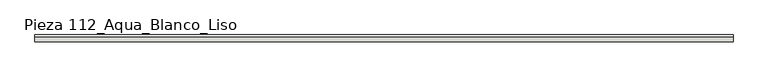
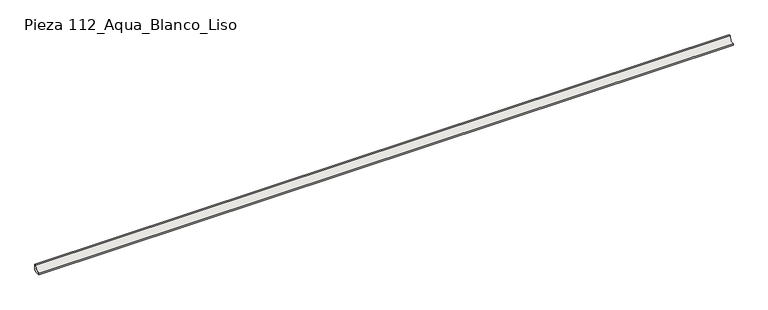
"""IFC4 building model written with IfcOpenShell, lengths in millimetres: slab geometry, ROSA GRES_112 : Pieza 112_Aqua_Blanco_Liso."""

from ifc_helpers import new_model, si_unit, point, frame, frame_2d, origin, place, context, project, spatial, polyline, circle_curve, trimmed, segment, composite_curve, outline, extrude, source, transform, mapped, element, save


def pieza_112_aqua_blanco_liso_e0a0f779(model_context):
    return source(origin(), model_context, "Body", "SweptSolid", [
        extrude(outline(composite_curve([segment(polyline([(9.9734114, 8.7114978), (1.2619137, 0.0), (-30.0265886, 0.0), (-30.0265886, 9.9734114)]), True, "CONTINUOUS"), segment(trimmed(circle_curve(frame_2d((-30.0221432, 39.9955547)), 30.0221435), [point((-30.0265886, 9.9734114))], [point((0.0, 40.0))], True, "CARTESIAN"), True, "CONTINUOUS"), segment(polyline([(0.0, 40.0), (9.9734114, 40.0), (9.9734114, 8.7114978)]), True, "CONTINUOUS")], self_intersect=False)), frame((0.0, 0.0, 0.0), z_axis=(1.0, 0.0, 0.0), x_axis=(0.0, 1.0, 0.0)), (0.0, 0.0, 1.0), 4066.1645773),
    ])


if __name__ == "__main__":
    model = new_model("IFC4")
    model_context = context("Model", 3, world=origin())
    ifc_project = project(units=[si_unit("LENGTHUNIT", "METRE", prefix="MILLI")], contexts=[model_context])
    site = spatial("IfcSite", under=ifc_project)
    building = spatial("IfcBuilding", under=site)
    placement = place(None, origin())
    pieza_112_aqua_blanco_liso_shape = pieza_112_aqua_blanco_liso_e0a0f779(model_context)
    element("IfcSlab", 1, ObjectType="ROSA GRES_112 : Pieza 112_Aqua_Blanco_Liso", at=placement, inside=building, context=model_context, shape_type="MappedRepresentation", body=[
        mapped(pieza_112_aqua_blanco_liso_shape, transform((0.0, 0.0, 0.0), x_axis=(1.0, 0.0, 0.0), y_axis=(0.0, 1.0, 0.0), z_axis=(0.0, 0.0, 1.0))),
    ])
    save(model, "model.ifc")
